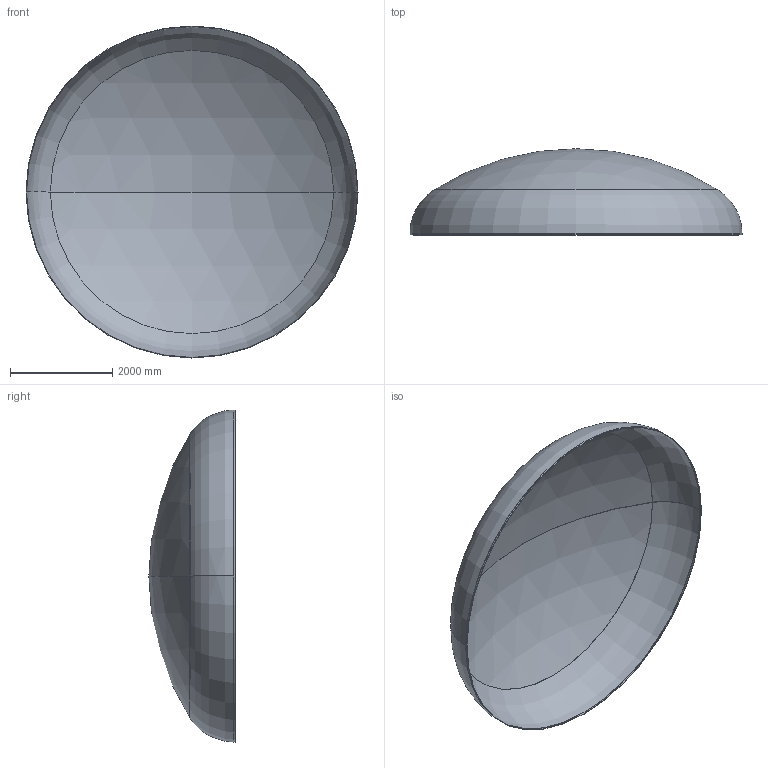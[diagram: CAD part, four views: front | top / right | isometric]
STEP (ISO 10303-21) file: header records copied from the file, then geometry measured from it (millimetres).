
FILE_DESCRIPTION (( 'STEP AP203' ), '1' );
FILE_NAME ('DIN 28013 Korbbogenform_-_Boden DIN 28013 - 6500 x 30 - I - s=10.step', '2016-07-04T10:39:46', ( '' ), ( '' ), 'SwSTEP 2.0', 'SolidWorks 2013', '' );
FILE_SCHEMA (( 'CONFIG_CONTROL_DESIGN' ));
Length unit declared in the file: millimetre
Products named in the file (1): DIN 28013 Korbbogenform_-_Boden DIN 28013 - 6500 x 30 - I - s=10
Bounding box: 6500 x 1687.2 x 6500 mm (x, y, z)
Volume: 464721709.8 mm3; surface area: 93148402 mm2
Topology: 1 solids, 1 shells, 13 faces, 24 edges, 14 vertices
Faces by surface type: torus 4, cylinder 4, sphere 4, plane 1
Entity records: 407 total; most frequent: DIRECTION 72, CARTESIAN_POINT 52, ORIENTED_EDGE 48, AXIS2_PLACEMENT_3D 34, EDGE_CURVE 24, CIRCLE 20, VERTEX_POINT 14, EDGE_LOOP 14
